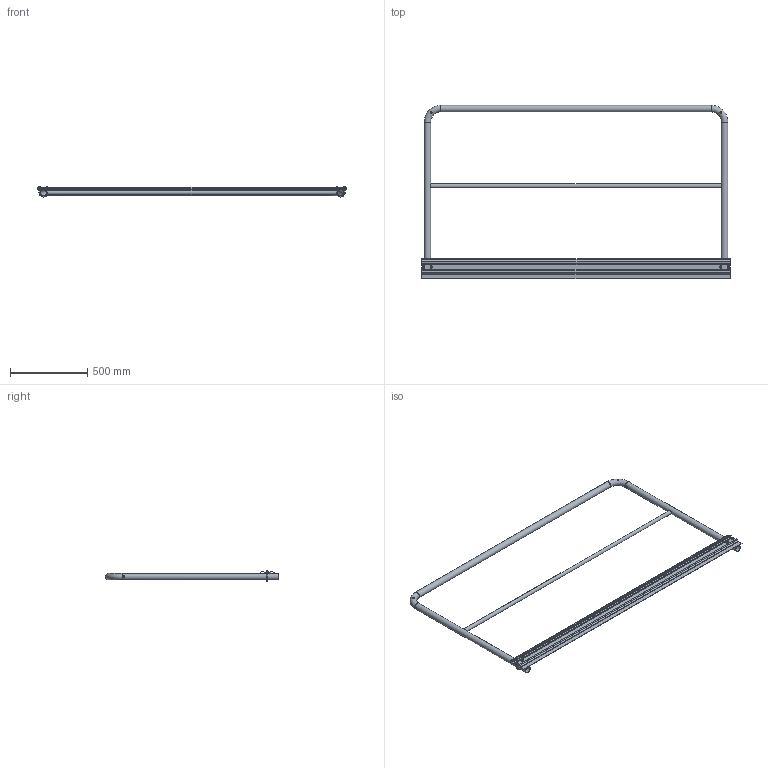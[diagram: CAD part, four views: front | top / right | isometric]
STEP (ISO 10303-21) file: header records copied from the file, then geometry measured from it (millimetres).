
FILE_DESCRIPTION((''),'2;1');
FILE_NAME('S:\Användarkataloger\AndreasA\Mina Inventor filer\Räcken\STEP\modul_ind_slist_2000-1100.stp','2010-09-07T13:17:39',('AndreasA'),(''),'Autodesk Inventor 2011','Autodesk Inventor 2011','');
FILE_SCHEMA(('AUTOMOTIVE_DESIGN { 1 0 10303 214 1 1 1 1 }'));
Length unit declared in the file: millimetre
Products named in the file (9): modul_ind_slist_2000-1100; modul_ind_2000-1100; handledare_modul_2000-1100; mellanliggare_modul_2000; sparklist_k130_modul_2000; bygelskruv_U42_kpl; bygelskruv_U42; SS 3576 8; ISO 4032 M8
Assembly tree (11 placements, depth 3):
  modul_ind_slist_2000-1100
    modul_ind_2000-1100
      handledare_modul_2000-1100
      mellanliggare_modul_2000
    sparklist_k130_modul_2000
    bygelskruv_U42_kpl  x2
      bygelskruv_U42
      SS 3576 8
      ISO 4032 M8
Bounding box: 1996 x 1121.2 x 64.99 mm (x, y, z)
Volume: 2042766.9 mm3; surface area: 1904184.5 mm2
Topology: 13 solids, 13 shells, 148 faces, 350 edges, 224 vertices
Faces by surface type: plane 66, cylinder 52, cone 24, torus 6
Full cylindrical faces by diameter (mm): 6.647 x4, 7 x4, 8 x4, 8.4 x4, 10 x4, 11 x8, 16 x4, 21 x1, 25 x1, 38.4 x3, 42.4 x3
Entity records: 3275 total; most frequent: CARTESIAN_POINT 1136, DIRECTION 414, ORIENTED_EDGE 324, AXIS2_PLACEMENT_3D 174, EDGE_CURVE 162, EDGE_LOOP 158, VERTEX_POINT 128, FACE_OUTER_BOUND 86
